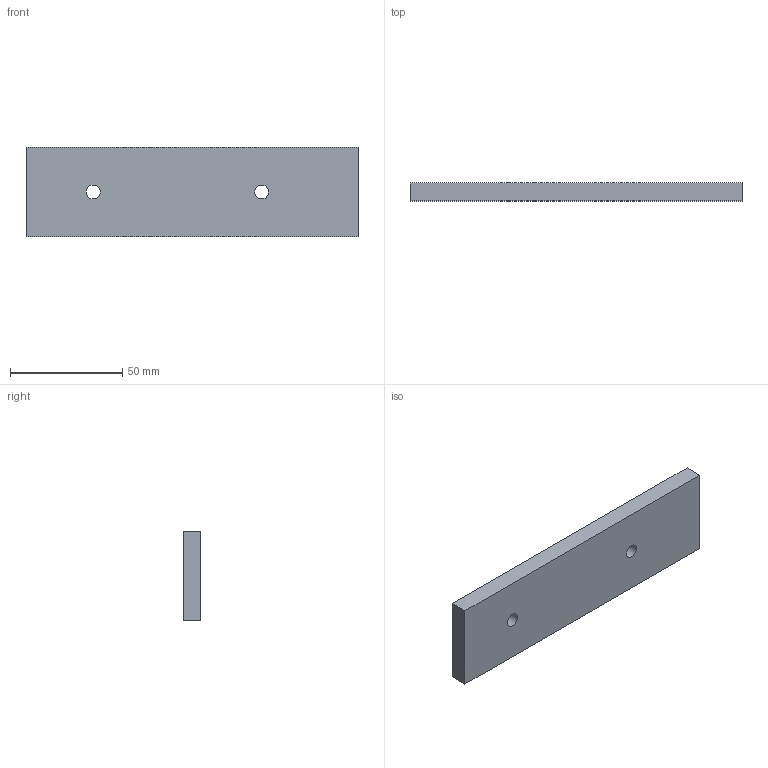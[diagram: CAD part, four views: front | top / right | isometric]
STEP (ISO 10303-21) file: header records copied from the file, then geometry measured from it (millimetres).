
FILE_DESCRIPTION(/* description */ (''),/* implementation_level */ '2;1');
FILE_NAME(/* name */ 'C:\Users\Apardo\Documents\Proyectos\Dietrich\Proyecto 1\PLATE ROLLING MACHINE\STEP\3.1 position 1A.stp',/* time_stamp */ '2020-11-03T20:38:26-04:00',/* author */ ('Apardo'),/* organization */ ('25'),/* preprocessor_version */ 'ST-DEVELOPER v18',/* originating_system */ 'Autodesk Inventor 2020',/* authorisation */ '');
FILE_SCHEMA (('AUTOMOTIVE_DESIGN { 1 0 10303 214 3 1 1 }'));
Length unit declared in the file: millimetre
Products named in the file (1): position 1A
Bounding box: 148 x 8 x 40 mm (x, y, z)
Volume: 46876.9 mm3; surface area: 15038.9 mm2
Topology: 1 solids, 1 shells, 8 faces, 20 edges, 14 vertices
Faces by surface type: plane 6, cylinder 2
Full cylindrical faces by diameter (mm): 6.2 x2
Entity records: 295 total; most frequent: DIRECTION 44, CARTESIAN_POINT 43, ORIENTED_EDGE 40, EDGE_CURVE 20, AXIS2_PLACEMENT_3D 15, LINE 14, VECTOR 14, VERTEX_POINT 14
